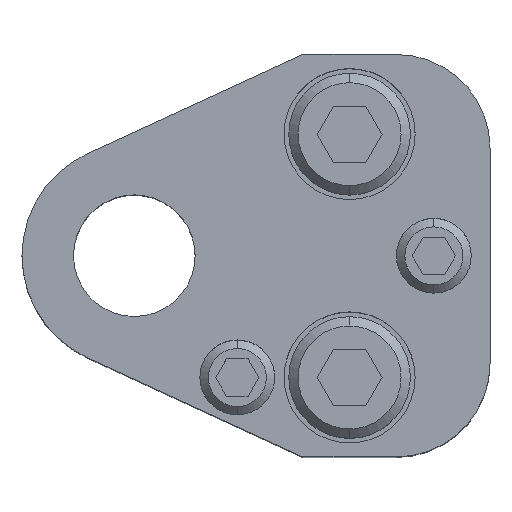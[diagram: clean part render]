
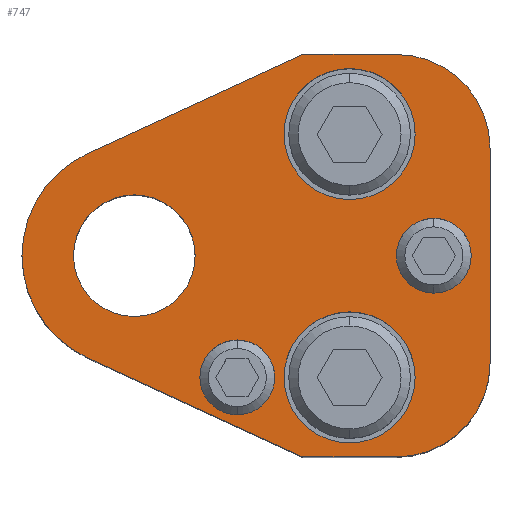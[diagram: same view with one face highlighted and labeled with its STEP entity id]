
A CAD part, top view. The second image highlights one B-rep face of the part: STEP entity #747.
In plain terms, the highlighted planar face has unit normal (0, 0, 1).
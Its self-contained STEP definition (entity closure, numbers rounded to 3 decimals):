
#429=LINE('',#3637,#593);
#433=LINE('',#3646,#597);
#437=LINE('',#3658,#601);
#441=LINE('',#3670,#605);
#444=LINE('',#3676,#608);
#593=VECTOR('',#2930,1.);
#597=VECTOR('',#2936,1.);
#601=VECTOR('',#2948,1.);
#605=VECTOR('',#2960,1.);
#608=VECTOR('',#2965,1.);
#747=ADVANCED_FACE('',(#853,#854,#855,#856,#857,#858),#823,.T.);
#823=PLANE('',#2443);
#853=FACE_BOUND('',#997,.T.);
#854=FACE_BOUND('',#998,.T.);
#855=FACE_BOUND('',#999,.T.);
#856=FACE_BOUND('',#1000,.T.);
#857=FACE_BOUND('',#1001,.T.);
#858=FACE_BOUND('',#1002,.T.);
#997=EDGE_LOOP('',(#1511,#1512,#1513,#1514,#1515,#1516,#1517,#1518));
#998=EDGE_LOOP('',(#1519,#1520));
#999=EDGE_LOOP('',(#1521,#1522));
#1000=EDGE_LOOP('',(#1523,#1524));
#1001=EDGE_LOOP('',(#1525,#1526));
#1002=EDGE_LOOP('',(#1527,#1528));
#1511=ORIENTED_EDGE('',*,*,#2004,.T.);
#1512=ORIENTED_EDGE('',*,*,#2008,.T.);
#1513=ORIENTED_EDGE('',*,*,#2011,.T.);
#1514=ORIENTED_EDGE('',*,*,#2014,.T.);
#1515=ORIENTED_EDGE('',*,*,#2017,.T.);
#1516=ORIENTED_EDGE('',*,*,#2020,.T.);
#1517=ORIENTED_EDGE('',*,*,#2023,.T.);
#1518=ORIENTED_EDGE('',*,*,#2026,.T.);
#1519=ORIENTED_EDGE('',*,*,#2061,.F.);
#1520=ORIENTED_EDGE('',*,*,#2062,.F.);
#1521=ORIENTED_EDGE('',*,*,#2063,.F.);
#1522=ORIENTED_EDGE('',*,*,#2064,.F.);
#1523=ORIENTED_EDGE('',*,*,#2051,.F.);
#1524=ORIENTED_EDGE('',*,*,#2047,.F.);
#1525=ORIENTED_EDGE('',*,*,#2045,.F.);
#1526=ORIENTED_EDGE('',*,*,#2041,.F.);
#1527=ORIENTED_EDGE('',*,*,#2065,.T.);
#1528=ORIENTED_EDGE('',*,*,#2066,.T.);
#1744=VERTEX_POINT('',#3636);
#1745=VERTEX_POINT('',#3638);
#1748=VERTEX_POINT('',#3645);
#1750=VERTEX_POINT('',#3651);
#1752=VERTEX_POINT('',#3657);
#1754=VERTEX_POINT('',#3663);
#1756=VERTEX_POINT('',#3669);
#1758=VERTEX_POINT('',#3675);
#1771=VERTEX_POINT('',#3712);
#1772=VERTEX_POINT('',#3713);
#1775=VERTEX_POINT('',#3724);
#1776=VERTEX_POINT('',#3725);
#1783=VERTEX_POINT('',#3752);
#1784=VERTEX_POINT('',#3753);
#1785=VERTEX_POINT('',#3756);
#1786=VERTEX_POINT('',#3757);
#1787=VERTEX_POINT('',#3760);
#1788=VERTEX_POINT('',#3761);
#2004=EDGE_CURVE('',#1745,#1744,#429,.T.);
#2008=EDGE_CURVE('',#1744,#1748,#433,.T.);
#2011=EDGE_CURVE('',#1748,#1750,#2171,.T.);
#2014=EDGE_CURVE('',#1750,#1752,#437,.T.);
#2017=EDGE_CURVE('',#1752,#1754,#2173,.T.);
#2020=EDGE_CURVE('',#1754,#1756,#441,.T.);
#2023=EDGE_CURVE('',#1756,#1758,#444,.T.);
#2026=EDGE_CURVE('',#1758,#1745,#2176,.T.);
#2041=EDGE_CURVE('',#1771,#1772,#2189,.T.);
#2045=EDGE_CURVE('',#1772,#1771,#2191,.T.);
#2047=EDGE_CURVE('',#1775,#1776,#2193,.T.);
#2051=EDGE_CURVE('',#1776,#1775,#2195,.T.);
#2061=EDGE_CURVE('',#1783,#1784,#2201,.T.);
#2062=EDGE_CURVE('',#1784,#1783,#2202,.T.);
#2063=EDGE_CURVE('',#1785,#1786,#2203,.T.);
#2064=EDGE_CURVE('',#1786,#1785,#2204,.T.);
#2065=EDGE_CURVE('',#1787,#1788,#2205,.T.);
#2066=EDGE_CURVE('',#1788,#1787,#2206,.T.);
#2171=CIRCLE('',#2390,10.);
#2173=CIRCLE('',#2394,10.);
#2176=CIRCLE('',#2400,12.);
#2189=CIRCLE('',#2417,4.);
#2191=CIRCLE('',#2420,4.);
#2193=CIRCLE('',#2423,4.);
#2195=CIRCLE('',#2426,4.);
#2201=CIRCLE('',#2437,7.);
#2202=CIRCLE('',#2438,7.);
#2203=CIRCLE('',#2439,7.);
#2204=CIRCLE('',#2440,7.);
#2205=CIRCLE('',#2441,6.5);
#2206=CIRCLE('',#2442,6.5);
#2390=AXIS2_PLACEMENT_3D('',#3652,#2941,#2942);
#2394=AXIS2_PLACEMENT_3D('',#3664,#2953,#2954);
#2400=AXIS2_PLACEMENT_3D('',#3680,#2971,#2972);
#2417=AXIS2_PLACEMENT_3D('',#3711,#3007,#3008);
#2420=AXIS2_PLACEMENT_3D('',#3720,#3015,#3016);
#2423=AXIS2_PLACEMENT_3D('',#3723,#3021,#3022);
#2426=AXIS2_PLACEMENT_3D('',#3732,#3029,#3030);
#2437=AXIS2_PLACEMENT_3D('',#3751,#3055,#3056);
#2438=AXIS2_PLACEMENT_3D('',#3754,#3057,#3058);
#2439=AXIS2_PLACEMENT_3D('',#3755,#3059,#3060);
#2440=AXIS2_PLACEMENT_3D('',#3758,#3061,#3062);
#2441=AXIS2_PLACEMENT_3D('',#3759,#3063,#3064);
#2442=AXIS2_PLACEMENT_3D('',#3762,#3065,#3066);
#2443=AXIS2_PLACEMENT_3D('',#3763,#3067,#3068);
#2930=DIRECTION('',(0.908,-0.418,0.));
#2936=DIRECTION('',(1.,0.,0.));
#2941=DIRECTION('',(0.,0.,1.));
#2942=DIRECTION('',(-0.707,0.707,0.));
#2948=DIRECTION('',(0.,1.,0.));
#2953=DIRECTION('',(0.,0.,1.));
#2954=DIRECTION('',(-0.707,-0.707,0.));
#2960=DIRECTION('',(-1.,0.,0.));
#2965=DIRECTION('',(-0.908,-0.418,0.));
#2971=DIRECTION('',(0.,0.,1.));
#2972=DIRECTION('',(1.,0.,0.));
#3007=DIRECTION('',(0.,0.,1.));
#3008=DIRECTION('',(-1.,0.,0.));
#3015=DIRECTION('',(0.,0.,1.));
#3016=DIRECTION('',(1.,0.,0.));
#3021=DIRECTION('',(0.,0.,1.));
#3022=DIRECTION('',(-1.,0.,0.));
#3029=DIRECTION('',(0.,0.,1.));
#3030=DIRECTION('',(1.,0.,0.));
#3055=DIRECTION('',(0.,0.,1.));
#3056=DIRECTION('',(1.,0.,0.));
#3057=DIRECTION('',(0.,0.,1.));
#3058=DIRECTION('',(-1.,0.,0.));
#3059=DIRECTION('',(0.,0.,1.));
#3060=DIRECTION('',(1.,0.,0.));
#3061=DIRECTION('',(0.,0.,1.));
#3062=DIRECTION('',(-1.,0.,0.));
#3063=DIRECTION('',(0.,0.,-1.));
#3064=DIRECTION('',(-1.,0.,0.));
#3065=DIRECTION('',(0.,0.,-1.));
#3066=DIRECTION('',(1.,0.,0.));
#3067=DIRECTION('',(0.,0.,1.));
#3068=DIRECTION('',(0.908,-0.418,0.));
#3636=CARTESIAN_POINT('',(18.,-21.5,35.));
#3637=CARTESIAN_POINT('',(18.,-21.5,35.));
#3638=CARTESIAN_POINT('',(-5.019,-10.9,35.));
#3645=CARTESIAN_POINT('',(28.,-21.5,35.));
#3646=CARTESIAN_POINT('',(18.,-21.5,35.));
#3651=CARTESIAN_POINT('',(38.,-11.5,35.));
#3652=CARTESIAN_POINT('',(28.,-11.5,35.));
#3657=CARTESIAN_POINT('',(38.,11.5,35.));
#3658=CARTESIAN_POINT('',(38.,11.5,35.));
#3663=CARTESIAN_POINT('',(28.,21.5,35.));
#3664=CARTESIAN_POINT('',(28.,11.5,35.));
#3669=CARTESIAN_POINT('',(18.,21.5,35.));
#3670=CARTESIAN_POINT('',(18.,21.5,35.));
#3675=CARTESIAN_POINT('',(-5.019,10.9,35.));
#3676=CARTESIAN_POINT('',(18.,21.5,35.));
#3680=CARTESIAN_POINT('',(0.,0.,35.));
#3711=CARTESIAN_POINT('',(11.,-13.,35.));
#3712=CARTESIAN_POINT('',(11.,-17.,35.));
#3713=CARTESIAN_POINT('',(11.,-9.,35.));
#3720=CARTESIAN_POINT('',(11.,-13.,35.));
#3723=CARTESIAN_POINT('',(32.,0.,35.));
#3724=CARTESIAN_POINT('',(32.,-4.,35.));
#3725=CARTESIAN_POINT('',(32.,4.,35.));
#3732=CARTESIAN_POINT('',(32.,0.,35.));
#3751=CARTESIAN_POINT('',(23.,13.,35.));
#3752=CARTESIAN_POINT('',(23.,20.,35.));
#3753=CARTESIAN_POINT('',(23.,6.,35.));
#3754=CARTESIAN_POINT('',(23.,13.,35.));
#3755=CARTESIAN_POINT('',(23.,-13.,35.));
#3756=CARTESIAN_POINT('',(23.,-6.,35.));
#3757=CARTESIAN_POINT('',(23.,-20.,35.));
#3758=CARTESIAN_POINT('',(23.,-13.,35.));
#3759=CARTESIAN_POINT('',(0.,0.,35.));
#3760=CARTESIAN_POINT('',(0.,6.5,35.));
#3761=CARTESIAN_POINT('',(0.,-6.5,35.));
#3762=CARTESIAN_POINT('',(0.,0.,35.));
#3763=CARTESIAN_POINT('',(-5.019,-10.9,35.));
